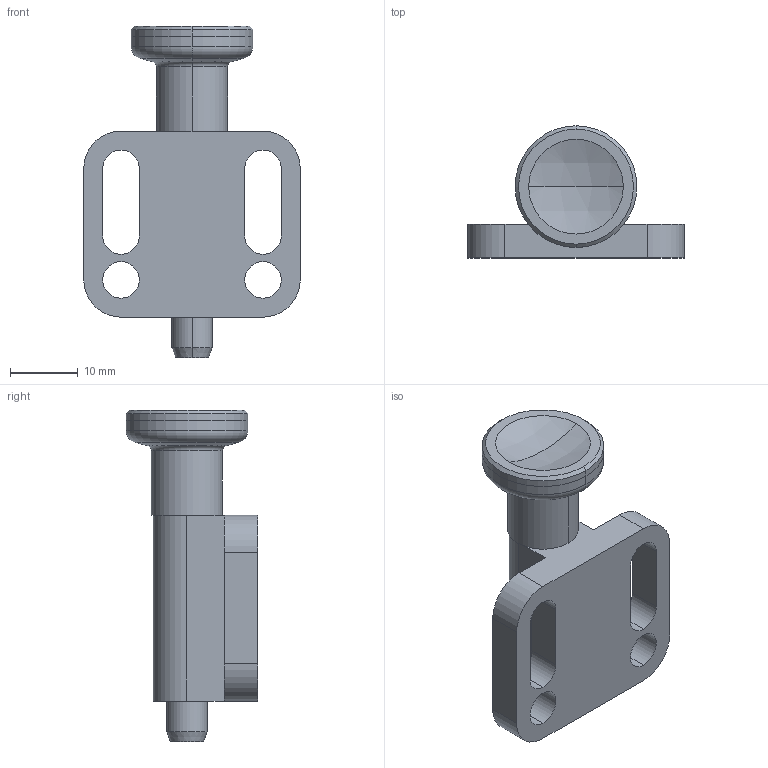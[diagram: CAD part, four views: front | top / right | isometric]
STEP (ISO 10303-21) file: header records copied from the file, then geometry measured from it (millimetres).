
FILE_DESCRIPTION (( 'STEP AP214' ), '1' );
FILE_NAME ('417-6-B.step', '2020-01-30T13:29:13', ( '' ), ( '' ), 'SwSTEP 2.0', 'SolidWorks 2019', '' );
FILE_SCHEMA (( 'AUTOMOTIVE_DESIGN' ));
Length unit declared in the file: millimetre
Products named in the file (3): WB417_Gehäuse^WB417_6-A; KWB417_Bolzen^WB417_6-BS; 417-6-B
Assembly tree (2 placements, depth 2):
  417-6-B
    WB417_Gehäuse^WB417_6-A
    KWB417_Bolzen^WB417_6-BS
Bounding box: 32 x 19.5 x 49 mm (x, y, z)
Volume: 7885 mm3; surface area: 5250.4 mm2
Topology: 2 solids, 2 shells, 66 faces, 154 edges, 99 vertices
Faces by surface type: cylinder 33, plane 21, cone 6, torus 4, sphere 2
Entity records: 2163 total; most frequent: DIRECTION 378, CARTESIAN_POINT 324, ORIENTED_EDGE 308, EDGE_CURVE 154, AXIS2_PLACEMENT_3D 153, VERTEX_POINT 99, EDGE_LOOP 83, CIRCLE 82
